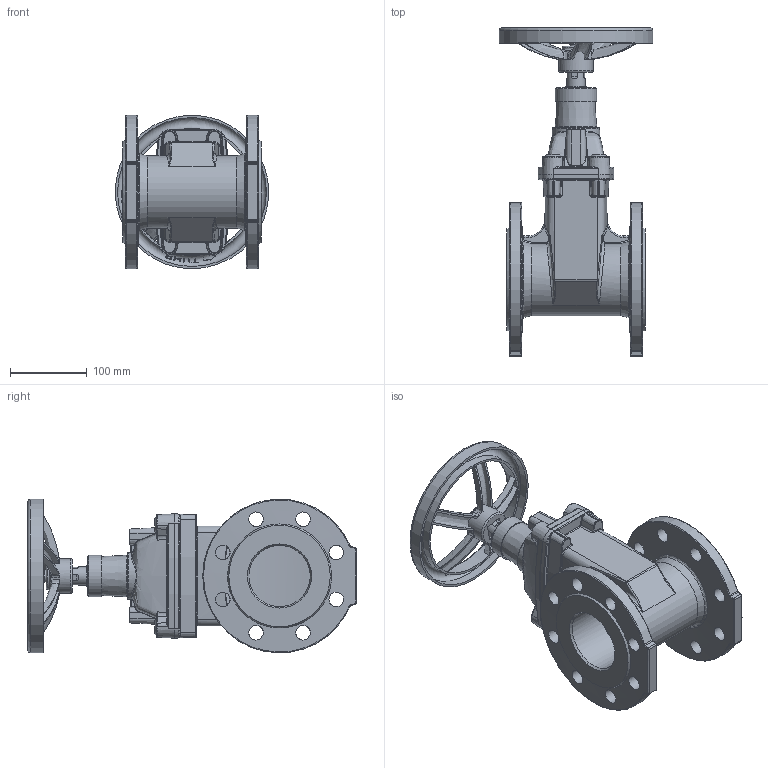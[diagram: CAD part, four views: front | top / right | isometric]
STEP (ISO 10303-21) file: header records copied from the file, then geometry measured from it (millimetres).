
FILE_DESCRIPTION (( 'STEP AP203' ), '1' );
FILE_NAME ('20.DN080.STEP', '2013-01-17T09:17:30', ( 'luca.saino' ), ( 'Hewlett-Packard Company' ), 'SwSTEP 2.0', 'SolidWorks 2012', '' );
FILE_SCHEMA (( 'CONFIG_CONTROL_DESIGN' ));
Length unit declared in the file: millimetre
Products named in the file (1): 20.DN080
Bounding box: 200 x 428 x 200 mm (x, y, z)
Volume: 3434333 mm3; surface area: 416115 mm2
Topology: 1 solids, 17 shells, 1332 faces, 3201 edges, 1857 vertices
Faces by surface type: cylinder 410, bspline 358, plane 286, torus 154, cone 94, sphere 30
Full cylindrical faces by diameter (mm): 6 x2, 6.8 x1, 8 x1, 8.4 x1, 8.5 x4, 10 x4, 10.2 x4, 11 x1, 12 x4, 13 x4, 16 x1, 18 x4, 19 x16, 20 x4, 22.5 x4, 23.5 x2, 36 x1, 45 x1, 54 x1, 80 x2, 160 x1, 166 x1, 194 x1, 200 x1
Entity records: 67329 total; most frequent: CARTESIAN_POINT 40701, ORIENTED_EDGE 5872, DIRECTION 4886, EDGE_CURVE 2936, AXIS2_PLACEMENT_3D 1977, VERTEX_POINT 1780, EDGE_LOOP 1534, FACE_OUTER_BOUND 1415
